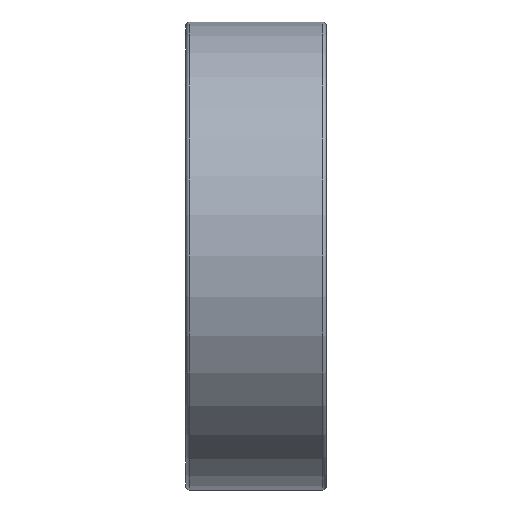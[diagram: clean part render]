
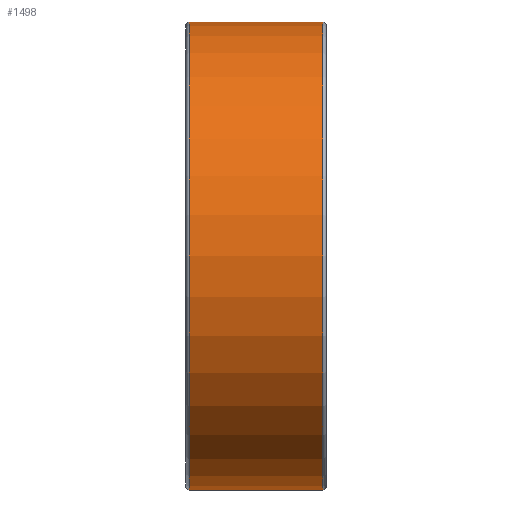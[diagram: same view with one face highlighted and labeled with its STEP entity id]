
A CAD part, front view. The second image highlights one B-rep face of the part: STEP entity #1498.
In plain terms, the highlighted cylindrical face has radius 20 mm (diameter 40 mm), a full revolution.
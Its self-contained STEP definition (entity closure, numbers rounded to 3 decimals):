
#203=LINE('',#2618,#265);
#265=VECTOR('',#2074,20.);
#326=CYLINDRICAL_SURFACE('',#1750,20.);
#385=FACE_OUTER_BOUND('',#475,.T.);
#475=EDGE_LOOP('',(#1133,#1134,#1135,#1136,#1137,#1138));
#605=CIRCLE('',#1747,20.);
#607=CIRCLE('',#1749,20.);
#608=CIRCLE('',#1751,20.);
#609=CIRCLE('',#1752,20.);
#744=VERTEX_POINT('',#2608);
#745=VERTEX_POINT('',#2609);
#746=VERTEX_POINT('',#2614);
#747=VERTEX_POINT('',#2615);
#892=EDGE_CURVE('',#744,#745,#605,.T.);
#894=EDGE_CURVE('',#745,#744,#607,.T.);
#895=EDGE_CURVE('',#746,#747,#608,.T.);
#896=EDGE_CURVE('',#747,#746,#609,.T.);
#897=EDGE_CURVE('',#747,#745,#203,.T.);
#1133=ORIENTED_EDGE('',*,*,#895,.F.);
#1134=ORIENTED_EDGE('',*,*,#896,.F.);
#1135=ORIENTED_EDGE('',*,*,#897,.T.);
#1136=ORIENTED_EDGE('',*,*,#894,.T.);
#1137=ORIENTED_EDGE('',*,*,#892,.T.);
#1138=ORIENTED_EDGE('',*,*,#897,.F.);
#1498=ADVANCED_FACE('',(#385),#326,.T.);
#1747=AXIS2_PLACEMENT_3D('',#2610,#2062,#2063);
#1749=AXIS2_PLACEMENT_3D('',#2612,#2066,#2067);
#1750=AXIS2_PLACEMENT_3D('',#2613,#2068,#2069);
#1751=AXIS2_PLACEMENT_3D('',#2616,#2070,#2071);
#1752=AXIS2_PLACEMENT_3D('',#2617,#2072,#2073);
#2062=DIRECTION('center_axis',(-1.,0.,0.));
#2063=DIRECTION('ref_axis',(0.,0.,1.));
#2066=DIRECTION('center_axis',(-1.,0.,0.));
#2067=DIRECTION('ref_axis',(0.,0.,1.));
#2068=DIRECTION('center_axis',(-1.,0.,0.));
#2069=DIRECTION('ref_axis',(0.,-1.,0.));
#2070=DIRECTION('center_axis',(-1.,0.,0.));
#2071=DIRECTION('ref_axis',(0.,0.,1.));
#2072=DIRECTION('center_axis',(-1.,0.,0.));
#2073=DIRECTION('ref_axis',(0.,0.,1.));
#2074=DIRECTION('',(1.,0.,0.));
#2608=CARTESIAN_POINT('',(8.95,0.,-20.));
#2609=CARTESIAN_POINT('',(8.95,20.,0.));
#2610=CARTESIAN_POINT('Origin',(8.95,0.,0.));
#2612=CARTESIAN_POINT('Origin',(8.95,0.,0.));
#2613=CARTESIAN_POINT('Origin',(3.25,0.,0.));
#2614=CARTESIAN_POINT('',(-2.45,0.,-20.));
#2615=CARTESIAN_POINT('',(-2.45,20.,0.));
#2616=CARTESIAN_POINT('Origin',(-2.45,0.,0.));
#2617=CARTESIAN_POINT('Origin',(-2.45,0.,0.));
#2618=CARTESIAN_POINT('',(3.25,20.,0.));
